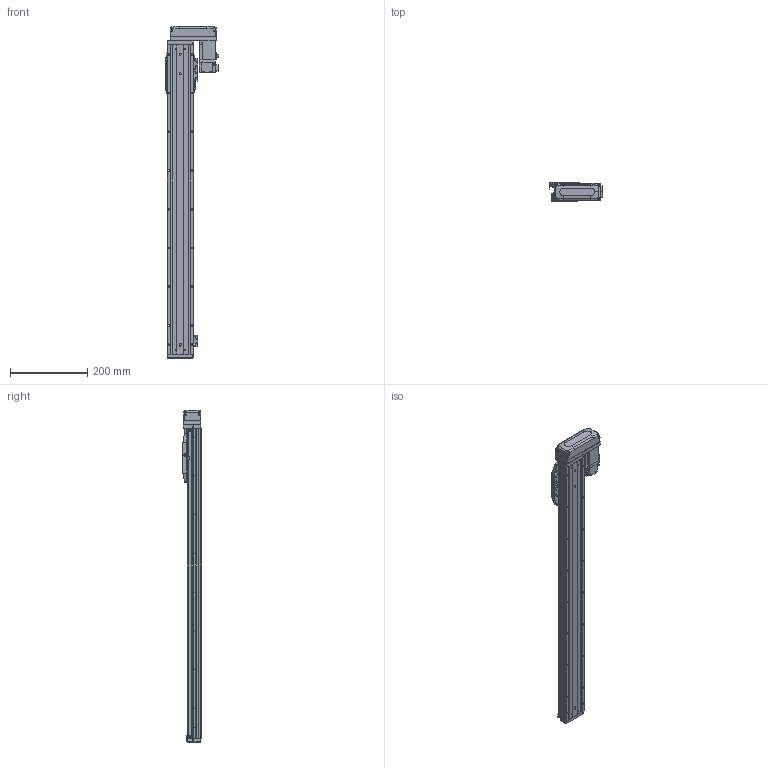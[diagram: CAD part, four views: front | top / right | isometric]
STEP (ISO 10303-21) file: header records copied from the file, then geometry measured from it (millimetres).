
FILE_DESCRIPTION (( 'STEP AP203' ), '1' );
FILE_NAME ('CTHA60-650-BL-M10-C4L.step', '2022-03-19T06:15:00', ( '微软用户' ), ( '微软中国' ), 'SwSTEP 2.0', 'SolidWorks 2020', '' );
FILE_SCHEMA (( 'CONFIG_CONTROL_DESIGN' ));
Length unit declared in the file: millimetre
Products named in the file (18): CTHA60-017; HG-KR13（三菱）; CTHA60-001_800; CTHA60-021; CTHA60-002; CTHA60-004; GBT 70.1-M4×16; CTHA60-031; CTHA60-005; GBT77-2000 M3×3; CTHA60-006-1; GBT 70.1-M3℅6; CTHA60-033; GB¨uT 70.2-M3¡Á6_M3¡Á6; GBT 70.3-M3℅6; CTHA60-650-BL-M10-C4L; EE_SX911P_R; CTHA60-016
Assembly tree (54 placements, depth 2):
  CTHA60-650-BL-M10-C4L
    CTHA60-001_800
    CTHA60-004
    CTHA60-005
    GB¨uT 70.2-M3¡Á6_M3¡Á6  x10
    EE_SX911P_R  x3
    CTHA60-017  x3
    CTHA60-021  x2
    GBT 70.1-M4×16  x10
    GBT77-2000 M3×3  x6
    GBT 70.1-M3℅6  x6
    GBT 70.3-M3℅6  x4
    CTHA60-016  x2
    HG-KR13（三菱）
    CTHA60-002
    CTHA60-031
    CTHA60-006-1
    CTHA60-033
Bounding box: 137.1 x 48 x 857 mm (x, y, z)
Volume: 1470858.3 mm3; surface area: 439682.6 mm2
Topology: 56 solids, 56 shells, 2554 faces, 6149 edges, 3793 vertices
Faces by surface type: plane 1473, cylinder 589, cone 344, torus 92, bspline 32, sphere 24
Entity records: 46303 total; most frequent: CARTESIAN_POINT 8922, DIRECTION 7166, ORIENTED_EDGE 7106, EDGE_CURVE 3553, LINE 2526, VECTOR 2526, AXIS2_PLACEMENT_3D 2320, VERTEX_POINT 2252
